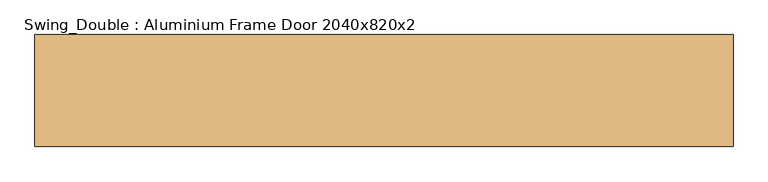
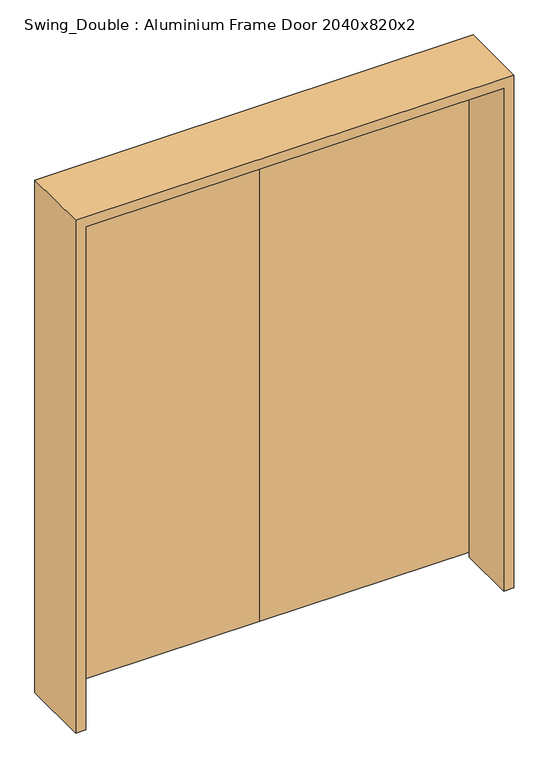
"""IFC4 building model written with IfcOpenShell, lengths in millimetres: door geometry, Swing_Double : Aluminium Frame Door 2040x820x2."""

from ifc_helpers import new_model, si_unit, frame, origin, place, context, project, spatial, polyline, outline, extrude, faceted_brep, source, transform, mapped, element, save


def swing_double_aluminium_frame_door_2040x820x2_040121c3(model_context):
    return source(origin(), model_context, "Body", "SolidModel", [
        extrude(outline(polyline([(-211.5, 135.0), (608.5, 135.0), (608.5, 95.0), (-211.5, 95.0), (-211.5, 135.0)])), frame((0.0, 0.0, 20.0), z_axis=(0.0, 0.0, 1.0), x_axis=(1.0, 0.0, 0.0)), (0.0, 0.0, 1.0), 2040.0),
        extrude(outline(polyline([(-211.5, 135.0), (-211.5, 95.0), (-1031.5, 95.0), (-1031.5, 135.0), (-211.5, 135.0)])), frame((0.0, 0.0, 20.0), z_axis=(0.0, 0.0, 1.0), x_axis=(1.0, 0.0, 0.0)), (0.0, 0.0, 1.0), 2040.0),
        faceted_brep([(629.5, -135.0, 0.0), (590.5, -135.0, 0.0), (590.5, 93.0, 0.0), (610.5, 93.0, 0.0), (610.5, 135.0, 0.0), (629.5, 135.0, 0.0), (629.5, -135.0, 2081.0), (-1052.5, -135.0, 2081.0), (-1052.5, -135.0, 0.0), (-1013.5, -135.0, 0.0), (-1013.5, -135.0, 2042.0), (590.5, -135.0, 2042.0), (590.5, 93.0, 2042.0), (-1013.5, 93.0, 2042.0), (-1013.5, 93.0, 0.0), (-1033.5, 93.0, 0.0), (-1033.5, 93.0, 2062.0), (610.5, 93.0, 2062.0), (610.5, 135.0, 2062.0), (-1033.5, 135.0, 2062.0), (-1033.5, 135.0, 0.0), (-1052.5, 135.0, 0.0), (-1052.5, 135.0, 2081.0), (629.5, 135.0, 2081.0)], [[[0, 1, 2, 3, 4, 5]], [[1, 0, 6, 7, 8, 9, 10, 11]], [[2, 1, 11, 12]], [[3, 2, 12, 13, 14, 15, 16, 17]], [[4, 3, 17, 18]], [[5, 4, 18, 19, 20, 21, 22, 23]], [[0, 5, 23, 6]], [[19, 16, 15, 20]], [[8, 21, 20, 15, 14, 9]], [[7, 22, 21, 8]], [[13, 10, 9, 14]], [[6, 23, 22, 7]], [[18, 17, 16, 19]], [[12, 11, 10, 13]]]),
    ])


if __name__ == "__main__":
    model = new_model("IFC4")
    model_context = context("Model", 3, world=origin())
    ifc_project = project(units=[si_unit("LENGTHUNIT", "METRE", prefix="MILLI")], contexts=[model_context])
    site = spatial("IfcSite", under=ifc_project)
    building = spatial("IfcBuilding", under=site)
    placement = place(None, origin())
    swing_double_aluminium_frame_door_2040x820x2_shape = swing_double_aluminium_frame_door_2040x820x2_040121c3(model_context)
    element("IfcDoor", 1, ObjectType="Swing_Double : Aluminium Frame Door 2040x820x2", at=placement, inside=building, context=model_context, shape_type="MappedRepresentation", body=[
        mapped(swing_double_aluminium_frame_door_2040x820x2_shape, transform((0.0, 0.0, 0.0), x_axis=(1.0, 0.0, 0.0), y_axis=(0.0, 1.0, 0.0), z_axis=(0.0, 0.0, 1.0))),
    ])
    save(model, "model.ifc")
